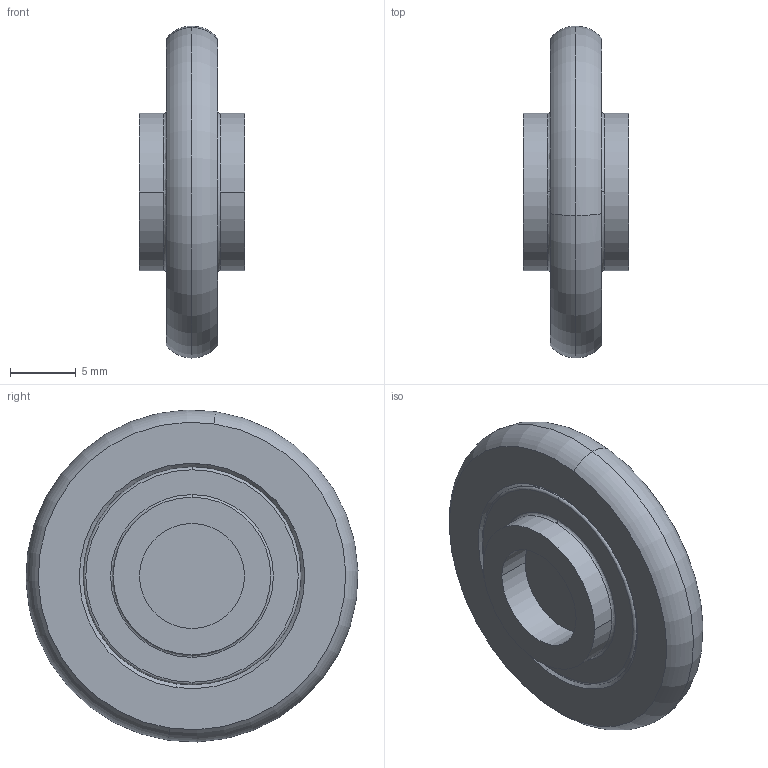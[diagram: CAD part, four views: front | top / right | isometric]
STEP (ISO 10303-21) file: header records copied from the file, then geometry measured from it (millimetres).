
FILE_DESCRIPTION((''),'2;1');
FILE_NAME('W:\211-089.stp','2003-10-08T13:08:39',('KAA'),(''),'Autodesk Inventor (R) 6.0','Autodesk Inventor (R) 6.0','');
FILE_SCHEMA(('CONFIG_CONTROL_DESIGN'));
Length unit declared in the file: millimetre
Products named in the file (1): 211-089
Bounding box: 8 x 25.29 x 25.29 mm (x, y, z)
Volume: 1994.4 mm3; surface area: 1735.9 mm2
Topology: 1 solids, 1 shells, 39 faces, 94 edges, 64 vertices
Faces by surface type: torus 16, cylinder 10, plane 9, bspline 4
Entity records: 1459 total; most frequent: CARTESIAN_POINT 374, DIRECTION 250, ORIENTED_EDGE 188, AXIS2_PLACEMENT_3D 120, EDGE_CURVE 94, CIRCLE 84, VERTEX_POINT 64, EDGE_LOOP 46
